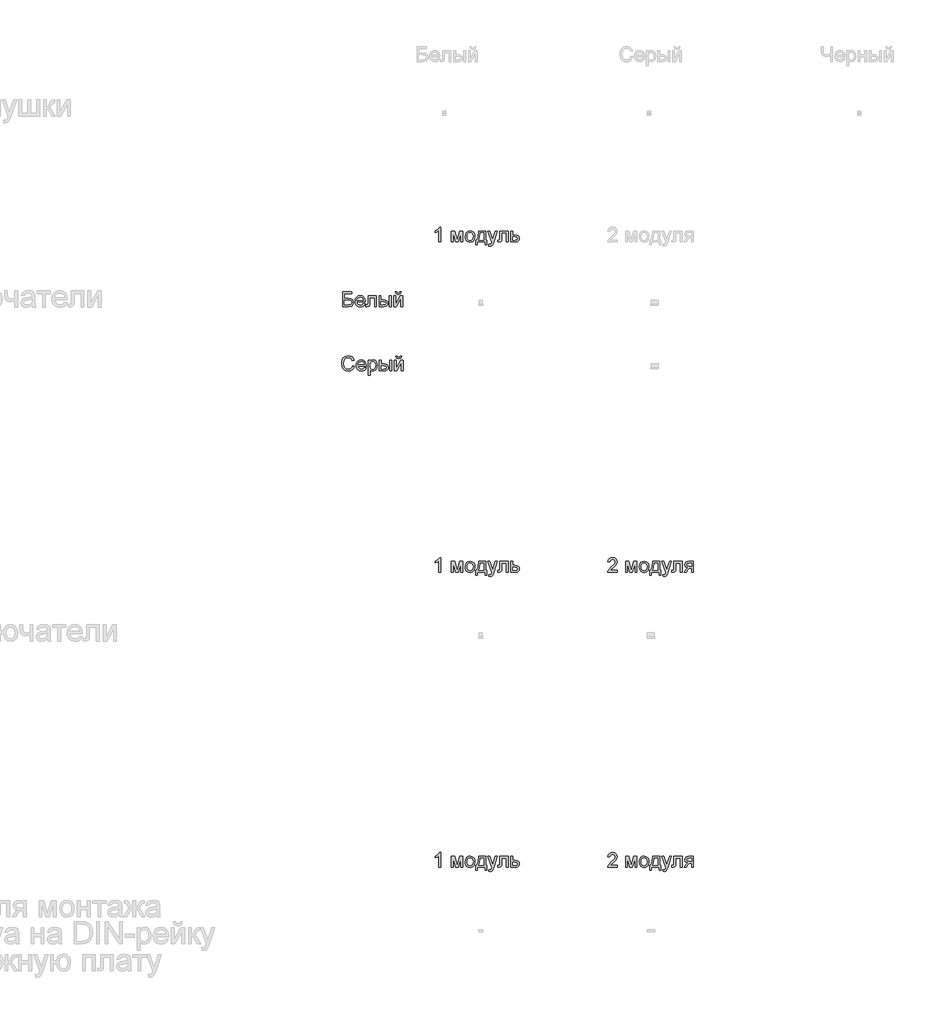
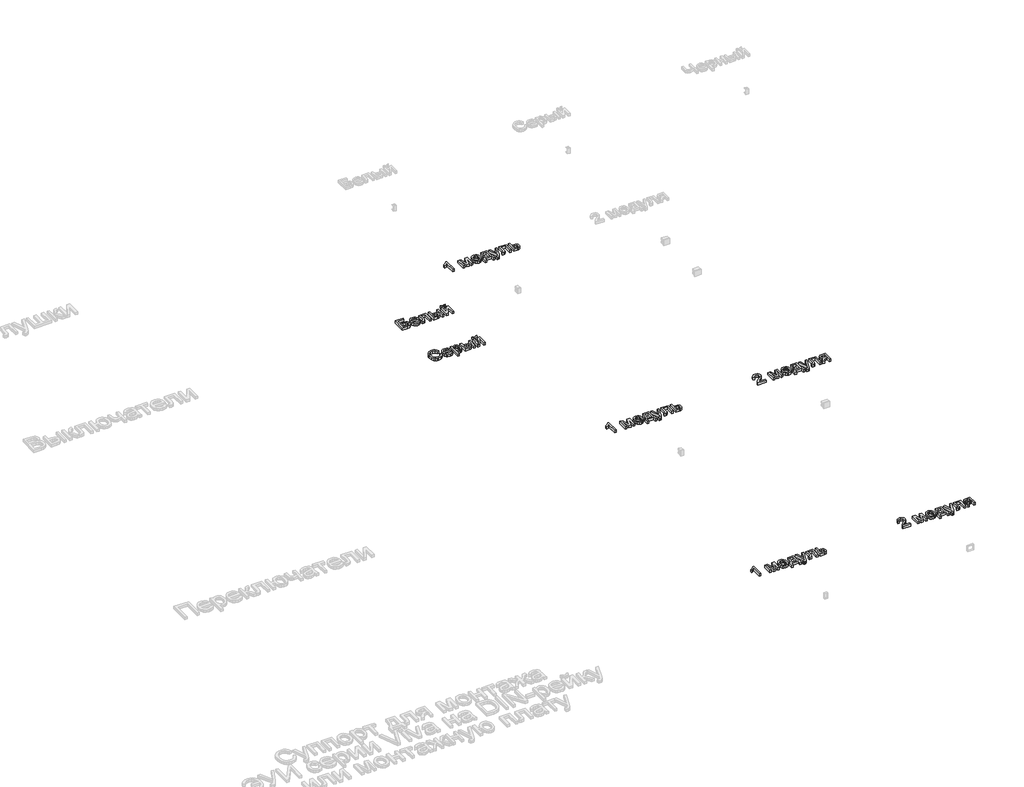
# One storey, part 6 of 15: 7 proxies.
"""IFC4 building model written with IfcOpenShell, lengths in millimetres."""

import ifcopenshell
import ifcopenshell.guid

model = None  # the IFC model being written
_history = None  # IfcOwnerHistory: only IFC2X3 demands one
_inside = {}  # id of a spatial element -> (the spatial element, [elements in it])
_under = {}  # id of a project, library or spatial element -> (it, [spatial elements below it])
_declared = {}  # id of a project -> (the project, [libraries it declares])
_typed = {}  # id of a type object -> (the type object, [elements of that type])
_made_of = {}  # id of a material, layer set ... -> (it, [elements and type objects made of it])


def new_model(schema):
    """Start an empty IFC model of exactly this schema.

    Asked for "IFC4X3", IfcOpenShell would pick the latest addendum, in which some entities
    have other attributes; the version numbers below select the first issue.
    IFC2X3 requires an IfcOwnerHistory on every rooted entity: one is made here for all.
    """
    global model, _history
    if schema == "IFC4X3":
        model = ifcopenshell.file(schema_version=(4, 3, 0, 0))
    else:
        model = ifcopenshell.file(schema=schema)
    _inside.clear()
    _under.clear()
    _declared.clear()
    _typed.clear()
    _made_of.clear()
    _history = None
    if model.schema == "IFC2X3":
        org = make("IfcOrganization", Name="unknown")
        user = make(
            "IfcPersonAndOrganization",
            ThePerson=make("IfcPerson", FamilyName="unknown"),
            TheOrganization=org,
        )
        app = make(
            "IfcApplication",
            ApplicationDeveloper=org,
            Version="unknown",
            ApplicationFullName="unknown",
            ApplicationIdentifier="unknown",
        )
        _history = make(
            "IfcOwnerHistory",
            OwningUser=user,
            OwningApplication=app,
            ChangeAction="ADDED",
            CreationDate=0,
        )
    return model


def make(cls, **values):
    """One entity of the class cls with the attributes given. An attribute that is None is left unset."""
    return model.create_entity(
        cls, **{name: value for name, value in values.items() if value is not None}
    )


def rooted(cls, **values):
    """An entity with a GlobalId (a new one), such as an element, a storey or a relation."""
    return make(cls, GlobalId=ifcopenshell.guid.new(), OwnerHistory=_history, **values)


def si_unit(unit_type, name, prefix=None):
    """IfcSIUnit, for example si_unit("LENGTHUNIT", "METRE", prefix="MILLI")."""
    return make("IfcSIUnit", UnitType=unit_type, Prefix=prefix, Name=name)


def assignment(units):
    """IfcUnitAssignment: the units of a project."""
    return None if units is None else make("IfcUnitAssignment", Units=units)


def point(xyz):
    """IfcCartesianPoint."""
    return None if xyz is None else make("IfcCartesianPoint", Coordinates=xyz)


def direction(xyz):
    """IfcDirection."""
    return None if xyz is None else make("IfcDirection", DirectionRatios=xyz)


def frame(location, z_axis=None, x_axis=None):
    """IfcAxis2Placement3D, a coordinate frame: its origin and axes. An axis left out is left unset."""
    return make(
        "IfcAxis2Placement3D",
        Location=point(location),
        Axis=direction(z_axis),
        RefDirection=direction(x_axis),
    )


def origin():
    """The frame at (0, 0, 0) with its axes left unset."""
    return frame((0.0, 0.0, 0.0))


def origin_with_axes():
    """The frame at (0, 0, 0) with the z axis (0, 0, 1) and the x axis (1, 0, 0) written out."""
    return frame((0.0, 0.0, 0.0), z_axis=(0.0, 0.0, 1.0), x_axis=(1.0, 0.0, 0.0))


def place(relative_to, where):
    """IfcLocalPlacement: puts the frame where relative to a parent placement (None: the world)."""
    return make(
        "IfcLocalPlacement", PlacementRelTo=relative_to, RelativePlacement=where
    )


def context(
    kind, dimensions, precision=None, world=None, true_north=None, identifier=None
):
    """IfcGeometricRepresentationContext, for example the 3D "Model" context."""
    return make(
        "IfcGeometricRepresentationContext",
        ContextIdentifier=identifier,
        ContextType=kind,
        CoordinateSpaceDimension=dimensions,
        Precision=precision,
        WorldCoordinateSystem=world,
        TrueNorth=true_north,
    )


def project(units=None, contexts=None):
    """IfcProject with its units and contexts."""
    return rooted(
        "IfcProject",
        Name="project",
        RepresentationContexts=contexts,
        UnitsInContext=assignment(units),
    )


def spatial(cls, under=None, at=None, **own):
    """A site, building, storey or space (cls), placed at a placement, below another one or the project."""
    s = rooted(cls, ObjectPlacement=at, **own)
    if under is not None:
        _under.setdefault(under.id(), (under, []))[1].append(s)
    return s


def polyline(points):
    """IfcPolyline through the points."""
    return make("IfcPolyline", Points=[point(p) for p in points])


def outline(outer, holes=None, kind="AREA"):
    """IfcArbitraryClosedProfileDef: a profile drawn as a closed curve; with holes, ...WithVoids."""
    if holes is None:
        return make("IfcArbitraryClosedProfileDef", ProfileType=kind, OuterCurve=outer)
    return make(
        "IfcArbitraryProfileDefWithVoids",
        ProfileType=kind,
        OuterCurve=outer,
        InnerCurves=holes,
    )


def extrude(swept, where, along, depth):
    """IfcExtrudedAreaSolid: the profile swept, set in the frame where, extruded along a direction by depth."""
    return make(
        "IfcExtrudedAreaSolid",
        SweptArea=swept,
        Position=where,
        ExtrudedDirection=direction(along),
        Depth=depth,
    )


def shape(context_of_items, identifier, shape_type, items):
    """IfcShapeRepresentation: the items that make up one representation, for example the "Body"."""
    return make(
        "IfcShapeRepresentation",
        ContextOfItems=context_of_items,
        RepresentationIdentifier=identifier,
        RepresentationType=shape_type,
        Items=items,
    )


def made_of(thing, what):
    """Note that an element or type object is made of a material, layer set ...; save() writes the relation."""
    if what is not None:
        _made_of.setdefault(what.id(), (what, []))[1].append(thing)
    return thing


def element(
    cls,
    number,
    at=None,
    inside=None,
    cuts=None,
    type_object=None,
    material=None,
    context=None,
    identifier="Body",
    shape_type=None,
    held_by="IfcProductDefinitionShape",
    body=None,
    shapes=None,
    **own,
):
    """One element of the class cls, such as IfcWall. Its Tag is "e" and its number.

    at: its placement. inside: the storey or other place that contains it. cuts: it is an
    opening in that element (IfcRelVoidsElement). A single representation is given by context,
    identifier, shape_type and body (its items); several are given by shapes. held_by: the class
    of the entity that holds the representations. save() writes the other relations.
    """
    e = rooted(cls, Tag="e%d" % number, ObjectPlacement=at, **own)
    if body is not None:
        shapes = [shape(context, identifier, shape_type, body)]
    if shapes is not None:
        e.Representation = make(held_by, Representations=shapes)
    if inside is not None:
        _inside.setdefault(inside.id(), (inside, []))[1].append(e)
    if cuts is not None:
        rooted(
            "IfcRelVoidsElement", RelatingBuildingElement=cuts, RelatedOpeningElement=e
        )
    if type_object is not None:
        _typed.setdefault(type_object.id(), (type_object, []))[1].append(e)
    return made_of(e, material)


def aggregate(whole, parts):
    """IfcRelAggregates: a whole, such as a stair, and the parts it consists of."""
    return rooted("IfcRelAggregates", RelatingObject=whole, RelatedObjects=parts)


def save(model, path):
    """Write the relations noted so far, then the file.

    IfcRelAggregates (storeys below a building ...), IfcRelContainedInSpatialStructure (elements
    in a storey), IfcRelDefinesByType, IfcRelAssociatesMaterial and IfcRelDeclares: one each for
    every whole, place, type object, material and project.
    """
    for whole, parts in _under.values():
        aggregate(whole, parts)
    for where, things in _inside.values():
        rooted(
            "IfcRelContainedInSpatialStructure",
            RelatedElements=things,
            RelatingStructure=where,
        )
    for kind, things in _typed.values():
        rooted("IfcRelDefinesByType", RelatedObjects=things, RelatingType=kind)
    for what, things in _made_of.values():
        rooted("IfcRelAssociatesMaterial", RelatedObjects=things, RelatingMaterial=what)
    for by, libraries in _declared.values():
        rooted("IfcRelDeclares", RelatingContext=by, RelatedDefinitions=libraries)
    model.write(path)


model = new_model("IFC4")

# Units and contexts
model_context = context("Model", 3, world=origin())
ifc_project = project(units=[si_unit("LENGTHUNIT", "METRE", prefix="MILLI")], contexts=[model_context])

# Site, building, storey
site = spatial("IfcSite", under=ifc_project)
building = spatial("IfcBuilding", under=site)
storey = spatial("IfcBuildingStorey", under=building, Name="Этаж 01", Elevation=0.0)

# Proxies
placement = place(None, origin())
element("IfcBuildingElementProxy", 1, Name="100 мм Arial", ObjectType="100 мм Arial", at=placement, inside=storey, context=model_context, shape_type="SweptSolid", body=[
    extrude(outline(polyline([(1484.9231999, -9748.687092), (1472.3661611, -9748.687092), (1472.3661611, -9670.4018035), (1460.4713099, -9678.8753521), (1447.2520836, -9685.2151851), (1447.2520836, -9673.3448594), (1465.6584461, -9661.5971611), (1476.829796, -9648.2307819), (1484.9231999, -9648.2307819), (1484.9231999, -9748.687092)])), origin_with_axes(), (0.0, 0.0, 1.0), 20.0),
    extrude(outline(polyline([(1557.1261728, -9674.9144893), (1578.7331086, -9674.9144893), (1595.3859003, -9733.9718122), (1613.3385417, -9674.9144893), (1634.0380352, -9674.9144893), (1634.0380352, -9748.687092), (1621.4809965, -9748.687092), (1621.4809965, -9689.2864126), (1603.4302532, -9748.687092), (1586.9491399, -9748.687092), (1569.6832116, -9686.4414585), (1569.6832116, -9748.687092), (1557.1261728, -9748.687092), (1557.1261728, -9674.9144893)])), origin_with_axes(), (0.0, 0.0, 1.0), 20.0),
    extrude(outline(polyline([(1649.7343337, -9711.8007907), (1652.4505291, -9694.0136962), (1660.5991153, -9681.5118397), (1670.6668192, -9675.3866045), (1682.7210859, -9673.3448594), (1695.9127212, -9675.8311286), (1706.4494746, -9683.289936), (1713.3564591, -9695.1326706), (1715.6587872, -9710.7707211), (1711.5875598, -9733.1134209), (1699.7294969, -9745.7562988), (1682.7210859, -9750.2567219), (1669.3700352, -9747.7796498), (1658.8455445, -9740.3484335), (1652.0121364, -9728.2573786), (1649.7343337, -9711.8007907)]), holes=[polyline([(1662.2913725, -9711.7762652), (1663.7445064, -9723.1407532), (1668.103908, -9731.2372227), (1674.6644702, -9736.084068), (1682.7210859, -9737.6996831), (1690.7409134, -9736.074871), (1697.289213, -9731.2004345), (1701.6486146, -9722.9966661), (1703.1017485, -9711.3838577), (1701.6394175, -9700.3504636), (1697.2524248, -9692.3643586), (1690.6949282, -9687.5175133), (1682.7210859, -9685.9018982), (1674.6644702, -9687.5113819), (1668.103908, -9692.3398331), (1663.7445064, -9700.4179086), (1662.2913725, -9711.7762652)])]), origin_with_axes(), (0.0, 0.0, 1.0), 20.0),
    extrude(outline(polyline([(1740.7728648, -9674.9144893), (1787.8617602, -9674.9144893), (1787.8617602, -9736.1300533), (1797.2795392, -9736.1300533), (1797.2795392, -9769.09228), (1784.7225005, -9769.09228), (1784.7225005, -9748.687092), (1732.9247156, -9748.687092), (1732.9247156, -9769.09228), (1720.3676768, -9769.09228), (1720.3676768, -9736.1300533), (1728.215826, -9736.1300533), (1737.915648, -9712.1809354), (1740.7728648, -9674.9144893)]), holes=[polyline([(1751.7602737, -9687.4715281), (1748.8172177, -9716.0804845), (1742.3424946, -9736.1300533), (1775.3047214, -9736.1300533), (1775.3047214, -9687.4715281), (1751.7602737, -9687.4715281)])]), origin_with_axes(), (0.0, 0.0, 1.0), 20.0),
    extrude(outline(polyline([(1811.4062079, -9776.9404293), (1809.836578, -9764.8493744), (1816.2131993, -9765.9530204), (1822.1728876, -9764.5673315), (1825.8271821, -9760.7045706), (1829.2607474, -9751.4584697), (1830.241766, -9748.4173119), (1803.5580586, -9674.9144893), (1816.8018105, -9674.9144893), (1830.9530045, -9715.8720181), (1835.8826233, -9732.2550296), (1840.812242, -9717.7850045), (1855.3558435, -9674.9144893), (1868.5014935, -9674.9144893), (1842.8233302, -9750.4529256), (1836.1524034, -9766.8359371), (1828.8683399, -9775.6896305), (1819.0826788, -9778.5100591), (1811.4062079, -9776.9404293)])), origin_with_axes(), (0.0, 0.0, 1.0), 20.0),
    extrude(outline(polyline([(1885.1788106, -9674.9144893), (1941.6854851, -9674.9144893), (1941.6854851, -9748.6135156), (1929.1284463, -9748.6135156), (1929.1284463, -9687.4715281), (1897.7358494, -9687.4715281), (1897.7358494, -9722.6655723), (1896.8897208, -9738.901431), (1892.2421449, -9745.7562988), (1881.254736, -9748.687092), (1871.052142, -9748.0494299), (1871.052142, -9736.1300533), (1876.6684738, -9736.1300533), (1882.3461193, -9735.3575011), (1884.6147249, -9732.9049545), (1885.1788106, -9721.9543337), (1885.1788106, -9674.9144893)])), origin_with_axes(), (0.0, 0.0, 1.0), 20.0),
    extrude(outline(polyline([(1960.5210432, -9674.9144893), (1973.078082, -9674.9144893), (1973.078082, -9701.5981967), (1987.5481071, -9701.5981967), (2000.0928832, -9703.1708922), (2009.3757722, -9707.8889788), (2015.1147313, -9715.3723117), (2017.0277177, -9725.2407462), (2015.3998399, -9734.226264), (2010.5162064, -9741.8076987), (2002.0518548, -9746.9672437), (1989.6818227, -9748.687092), (1960.5210432, -9748.687092), (1960.5210432, -9674.9144893)]), holes=[polyline([(1973.078082, -9736.1300533), (1984.8012549, -9736.1300533), (1999.9457304, -9733.4935656), (2004.4706789, -9725.2652717), (2001.1229528, -9717.5397498), (1986.2973084, -9714.1552354), (1973.078082, -9714.1552354), (1973.078082, -9736.1300533)])]), origin_with_axes(), (0.0, 0.0, 1.0), 20.0),
])
element("IfcBuildingElementProxy", 2, Name="100 мм Arial", ObjectType="100 мм Arial", at=placement, inside=storey, context=model_context, shape_type="SweptSolid", body=[
    extrude(outline(polyline([(818.5746136, -10087.4706043), (881.3598074, -10087.4706043), (881.3598074, -10100.0276431), (831.1316523, -10100.0276431), (831.1316523, -10129.8506101), (854.6515746, -10129.8506101), (875.3755936, -10132.4012586), (887.7119032, -10142.0397669), (892.3472163, -10158.5208803), (889.0485411, -10172.8314899), (879.2015664, -10183.7085342), (856.9079175, -10187.9269144), (818.5746136, -10187.9269144), (818.5746136, -10087.4706043)]), holes=[polyline([(831.1316523, -10175.3698757), (858.0360889, -10175.3698757), (874.345524, -10171.2250719), (878.4290142, -10166.0440671), (879.7901776, -10158.7906604), (876.6754433, -10148.9559484), (868.005691, -10143.7074986), (849.0842937, -10142.4076489), (831.1316523, -10142.4076489), (831.1316523, -10175.3698757)])]), origin_with_axes(), (0.0, 0.0, 1.0), 20.0),
    extrude(outline(polyline([(959.6941469, -10165.9520966), (972.005931, -10167.5217264), (967.5698873, -10176.7984841), (960.4912246, -10183.7330597), (950.9293584, -10188.0556731), (939.0437042, -10189.4965443), (924.3100303, -10187.0102751), (912.9731335, -10179.5514677), (905.7442523, -10167.6044999), (903.3346253, -10151.6537497), (905.7687778, -10135.166505), (913.0712354, -10122.8363268), (924.254848, -10115.1475931), (938.3324657, -10112.5846818), (951.9716907, -10115.1414617), (962.8701948, -10122.8118013), (970.0163026, -10135.117454), (972.3983385, -10151.5801733), (972.3247621, -10154.9646877), (915.891664, -10154.9646877), (918.0652335, -10164.3640727), (923.1144139, -10171.2741228), (930.401543, -10175.5231598), (939.2889589, -10176.9395055), (951.600743, -10174.3152806), (959.6941469, -10165.9520966)]), holes=[polyline([(915.891664, -10142.4076489), (959.8412997, -10142.4076489), (954.8135791, -10131.0278325), (947.4927274, -10126.6132486), (938.2834148, -10125.1417206), (922.8201083, -10129.8383474), (917.9548689, -10135.3289862), (915.891664, -10142.4076489)])]), origin_with_axes(), (0.0, 0.0, 1.0), 20.0),
    extrude(outline(polyline([(991.2338966, -10114.1543117), (1047.7405711, -10114.1543117), (1047.7405711, -10187.853338), (1035.1835323, -10187.853338), (1035.1835323, -10126.7113504), (1003.7909354, -10126.7113504), (1003.7909354, -10161.9053946), (1002.9448068, -10178.1412534), (998.2972309, -10184.9961212), (987.309822, -10187.9269144), (977.107228, -10187.2892523), (977.107228, -10175.3698757), (982.7235598, -10175.3698757), (988.4012053, -10174.5973235), (990.6698109, -10172.1447768), (991.2338966, -10161.1941561), (991.2338966, -10114.1543117)])), origin_with_axes(), (0.0, 0.0, 1.0), 20.0),
    extrude(outline(polyline([(1135.6398425, -10114.1543117), (1148.1968812, -10114.1543117), (1148.1968812, -10187.9269144), (1135.6398425, -10187.9269144), (1135.6398425, -10114.1543117)])), origin_with_axes(), (0.0, 0.0, 1.0), 20.0),
    extrude(outline(polyline([(1066.5761292, -10114.1543117), (1079.133168, -10114.1543117), (1079.133168, -10140.8380191), (1094.6577882, -10140.8380191), (1108.076284, -10142.4107146), (1118.0182949, -10147.1288012), (1124.1711213, -10154.6121341), (1126.2220634, -10164.4805686), (1124.5022151, -10173.4660863), (1119.3426701, -10181.0475211), (1110.4062033, -10186.2070661), (1097.3555895, -10187.9269144), (1066.5761292, -10187.9269144), (1066.5761292, -10114.1543117)]), holes=[polyline([(1079.133168, -10175.3698757), (1092.0335633, -10175.3698757), (1108.686355, -10172.733388), (1113.6650246, -10164.5050941), (1109.9739419, -10156.7795722), (1093.6767696, -10153.3950578), (1079.133168, -10153.3950578), (1079.133168, -10175.3698757)])]), origin_with_axes(), (0.0, 0.0, 1.0), 20.0),
    extrude(outline(polyline([(1167.0324394, -10114.1543117), (1179.5894782, -10114.1543117), (1179.5894782, -10170.4157315), (1210.4425148, -10114.1543117), (1226.6783735, -10114.1543117), (1226.6783735, -10187.9269144), (1214.1213348, -10187.9269144), (1214.1213348, -10132.0088512), (1183.4645018, -10187.9269144), (1167.0324394, -10187.9269144), (1167.0324394, -10114.1543117)])), origin_with_axes(), (0.0, 0.0, 1.0), 20.0),
    extrude(outline(polyline([(1207.8428154, -10087.4706043), (1217.2605945, -10087.4706043), (1211.1660161, -10101.4378574), (1197.6402214, -10106.3061624), (1182.998518, -10101.4746456), (1176.4502185, -10087.4706043), (1185.8679975, -10087.4706043), (1189.3996647, -10094.5462013), (1196.5120499, -10096.8883834), (1204.3111482, -10094.6197777), (1207.8428154, -10087.4706043)])), origin_with_axes(), (0.0, 0.0, 1.0), 20.0),
])
element("IfcBuildingElementProxy", 3, Name="100 мм Arial", ObjectType="100 мм Arial", at=placement, inside=storey, context=model_context, shape_type="SweptSolid", body=[
    extrude(outline(polyline([(886.8535119, -10587.2178354), (899.4105506, -10590.455197), (893.6164092, -10605.0877034), (884.5235926, -10615.777741), (872.5796905, -10622.3168435), (858.2322926, -10624.4965443), (843.6672313, -10622.8472067), (832.1004083, -10617.8991938), (823.2344522, -10609.824184), (816.7719918, -10598.7938556), (811.5112793, -10571.9384699), (812.9981357, -10557.2906351), (817.4587048, -10544.6416259), (824.6599949, -10534.3930466), (834.3690139, -10526.9465019), (845.8837203, -10522.4123563), (858.5020728, -10520.9009744), (872.2700564, -10522.8568804), (883.6529385, -10528.7245982), (892.2950997, -10538.1423773), (897.8409208, -10550.748467), (885.283882, -10553.7405739), (874.9831862, -10538.3017928), (858.0115634, -10533.4580132), (838.3666649, -10538.8290903), (827.2688914, -10553.2500646), (824.068318, -10571.9139444), (827.8575026, -10593.5454058), (839.6542519, -10607.365506), (856.9814939, -10611.9395055), (867.463065, -10610.3821384), (876.1971967, -10605.7100371), (882.7914815, -10597.9722524), (886.8535119, -10587.2178354)])), origin_with_axes(), (0.0, 0.0, 1.0), 20.0),
    extrude(outline(polyline([(966.7574812, -10600.9520966), (979.0692653, -10602.5217264), (974.6332216, -10611.7984841), (967.5545589, -10618.7330597), (957.9926927, -10623.0556731), (946.1070386, -10624.4965443), (931.3733647, -10622.0102751), (920.0364678, -10614.5514677), (912.8075866, -10602.6044999), (910.3979596, -10586.6537497), (912.8321121, -10570.166505), (920.1345697, -10557.8363268), (931.3181824, -10550.1475931), (945.3958, -10547.5846818), (959.035025, -10550.1414617), (969.9335291, -10557.8118013), (977.0796369, -10570.117454), (979.4616728, -10586.5801733), (979.3880964, -10589.9646877), (922.9549983, -10589.9646877), (925.1285678, -10599.3640727), (930.1777482, -10606.2741228), (937.4648774, -10610.5231598), (946.3522932, -10611.9395055), (958.6640773, -10609.3152806), (966.7574812, -10600.9520966)]), holes=[polyline([(922.9549983, -10577.4076489), (966.904634, -10577.4076489), (961.8769134, -10566.0278325), (954.5560617, -10561.6132486), (945.3467491, -10560.1417206), (929.8834426, -10564.8383474), (925.0182032, -10570.3289862), (922.9549983, -10577.4076489)])]), origin_with_axes(), (0.0, 0.0, 1.0), 20.0),
    extrude(outline(polyline([(992.0187116, -10651.1802517), (992.0187116, -10549.1543117), (1004.5757503, -10549.1543117), (1004.5757503, -10561.4660958), (1013.2577654, -10551.0550353), (1024.9809383, -10547.5846818), (1040.897966, -10552.4407242), (1051.2967637, -10566.1259344), (1054.8039054, -10585.4765273), (1050.8430426, -10605.8204017), (1039.3405989, -10619.6772902), (1023.4603594, -10624.4965443), (1012.5342642, -10621.2714455), (1004.5757503, -10613.1167279), (1004.5757503, -10651.1802517), (992.0187116, -10651.1802517)]), holes=[polyline([(1004.5757503, -10586.6292243), (1005.933848, -10597.8864133), (1010.0081411, -10605.759088), (1016.0199461, -10610.3944011), (1023.1905793, -10611.9395055), (1030.4777085, -10610.3392188), (1036.6427976, -10605.5383588), (1040.8458494, -10597.3775099), (1042.2468666, -10585.6972565), (1040.8795719, -10574.5013811), (1036.7776876, -10566.5183418), (1030.7750797, -10561.7358759), (1023.7056141, -10560.1417206), (1016.6085572, -10561.8370435), (1010.3760231, -10566.923012), (1006.0258185, -10575.2402108), (1004.5757503, -10586.6292243)])]), origin_with_axes(), (0.0, 0.0, 1.0), 20.0),
    extrude(outline(polyline([(1137.9942872, -10549.1543117), (1150.551326, -10549.1543117), (1150.551326, -10622.9269144), (1137.9942872, -10622.9269144), (1137.9942872, -10549.1543117)])), origin_with_axes(), (0.0, 0.0, 1.0), 20.0),
    extrude(outline(polyline([(1068.930574, -10549.1543117), (1081.4876128, -10549.1543117), (1081.4876128, -10575.8380191), (1097.012233, -10575.8380191), (1110.4307288, -10577.4107146), (1120.3727397, -10582.1288012), (1126.525566, -10589.6121341), (1128.5765082, -10599.4805686), (1126.8566598, -10608.4660863), (1121.6971149, -10616.0475211), (1112.7606481, -10621.2070661), (1099.7100343, -10622.9269144), (1068.930574, -10622.9269144), (1068.930574, -10549.1543117)]), holes=[polyline([(1081.4876128, -10610.3698757), (1094.3880081, -10610.3698757), (1111.0407997, -10607.733388), (1116.0194694, -10599.5050941), (1112.3283867, -10591.7795722), (1096.0312143, -10588.3950578), (1081.4876128, -10588.3950578), (1081.4876128, -10610.3698757)])]), origin_with_axes(), (0.0, 0.0, 1.0), 20.0),
    extrude(outline(polyline([(1210.1972602, -10522.4706043), (1219.6150392, -10522.4706043), (1213.5204609, -10536.4378574), (1199.9946662, -10541.3061624), (1185.3529628, -10536.4746456), (1178.8046632, -10522.4706043), (1188.2224423, -10522.4706043), (1191.7541095, -10529.5462013), (1198.8664947, -10531.8883834), (1206.665593, -10529.6197777), (1210.1972602, -10522.4706043)])), origin_with_axes(), (0.0, 0.0, 1.0), 20.0),
    extrude(outline(polyline([(1169.3868842, -10549.1543117), (1181.9439229, -10549.1543117), (1181.9439229, -10605.4157315), (1212.7969596, -10549.1543117), (1229.0328183, -10549.1543117), (1229.0328183, -10622.9269144), (1216.4757795, -10622.9269144), (1216.4757795, -10567.0088512), (1185.8189466, -10622.9269144), (1169.3868842, -10622.9269144), (1169.3868842, -10549.1543117)])), origin_with_axes(), (0.0, 0.0, 1.0), 20.0),
])
element("IfcBuildingElementProxy", 4, Name="100 мм Arial", ObjectType="100 мм Arial", at=placement, inside=storey, context=model_context, shape_type="SweptSolid", body=[
    extrude(outline(polyline([(1484.9231999, -11988.687092), (1472.3661611, -11988.687092), (1472.3661611, -11910.4018035), (1460.4713099, -11918.8753521), (1447.2520836, -11925.2151851), (1447.2520836, -11913.3448594), (1465.6584461, -11901.5971611), (1476.829796, -11888.2307819), (1484.9231999, -11888.2307819), (1484.9231999, -11988.687092)])), origin_with_axes(), (0.0, 0.0, 1.0), 20.0),
    extrude(outline(polyline([(1557.1261728, -11914.9144893), (1578.7331086, -11914.9144893), (1595.3859003, -11973.9718122), (1613.3385417, -11914.9144893), (1634.0380352, -11914.9144893), (1634.0380352, -11988.687092), (1621.4809965, -11988.687092), (1621.4809965, -11929.2864126), (1603.4302532, -11988.687092), (1586.9491399, -11988.687092), (1569.6832116, -11926.4414585), (1569.6832116, -11988.687092), (1557.1261728, -11988.687092), (1557.1261728, -11914.9144893)])), origin_with_axes(), (0.0, 0.0, 1.0), 20.0),
    extrude(outline(polyline([(1649.7343337, -11951.8007907), (1652.4505291, -11934.0136962), (1660.5991153, -11921.5118397), (1670.6668192, -11915.3866045), (1682.7210859, -11913.3448594), (1695.9127212, -11915.8311286), (1706.4494746, -11923.289936), (1713.3564591, -11935.1326706), (1715.6587872, -11950.7707211), (1711.5875598, -11973.1134209), (1699.7294969, -11985.7562988), (1682.7210859, -11990.2567219), (1669.3700352, -11987.7796498), (1658.8455445, -11980.3484335), (1652.0121364, -11968.2573786), (1649.7343337, -11951.8007907)]), holes=[polyline([(1662.2913725, -11951.7762652), (1663.7445064, -11963.1407532), (1668.103908, -11971.2372227), (1674.6644702, -11976.084068), (1682.7210859, -11977.6996831), (1690.7409134, -11976.074871), (1697.289213, -11971.2004345), (1701.6486146, -11962.9966661), (1703.1017485, -11951.3838577), (1701.6394175, -11940.3504636), (1697.2524248, -11932.3643586), (1690.6949282, -11927.5175133), (1682.7210859, -11925.9018982), (1674.6644702, -11927.5113819), (1668.103908, -11932.3398331), (1663.7445064, -11940.4179086), (1662.2913725, -11951.7762652)])]), origin_with_axes(), (0.0, 0.0, 1.0), 20.0),
    extrude(outline(polyline([(1740.7728648, -11914.9144893), (1787.8617602, -11914.9144893), (1787.8617602, -11976.1300533), (1797.2795392, -11976.1300533), (1797.2795392, -12009.09228), (1784.7225005, -12009.09228), (1784.7225005, -11988.687092), (1732.9247156, -11988.687092), (1732.9247156, -12009.09228), (1720.3676768, -12009.09228), (1720.3676768, -11976.1300533), (1728.215826, -11976.1300533), (1737.915648, -11952.1809354), (1740.7728648, -11914.9144893)]), holes=[polyline([(1751.7602737, -11927.4715281), (1748.8172177, -11956.0804845), (1742.3424946, -11976.1300533), (1775.3047214, -11976.1300533), (1775.3047214, -11927.4715281), (1751.7602737, -11927.4715281)])]), origin_with_axes(), (0.0, 0.0, 1.0), 20.0),
    extrude(outline(polyline([(1811.4062079, -12016.9404293), (1809.836578, -12004.8493744), (1816.2131993, -12005.9530204), (1822.1728876, -12004.5673315), (1825.8271821, -12000.7045706), (1829.2607474, -11991.4584697), (1830.241766, -11988.4173119), (1803.5580586, -11914.9144893), (1816.8018105, -11914.9144893), (1830.9530045, -11955.8720181), (1835.8826233, -11972.2550296), (1840.812242, -11957.7850045), (1855.3558435, -11914.9144893), (1868.5014935, -11914.9144893), (1842.8233302, -11990.4529256), (1836.1524034, -12006.8359371), (1828.8683399, -12015.6896305), (1819.0826788, -12018.5100591), (1811.4062079, -12016.9404293)])), origin_with_axes(), (0.0, 0.0, 1.0), 20.0),
    extrude(outline(polyline([(1885.1788106, -11914.9144893), (1941.6854851, -11914.9144893), (1941.6854851, -11988.6135156), (1929.1284463, -11988.6135156), (1929.1284463, -11927.4715281), (1897.7358494, -11927.4715281), (1897.7358494, -11962.6655723), (1896.8897208, -11978.901431), (1892.2421449, -11985.7562988), (1881.254736, -11988.687092), (1871.052142, -11988.0494299), (1871.052142, -11976.1300533), (1876.6684738, -11976.1300533), (1882.3461193, -11975.3575011), (1884.6147249, -11972.9049545), (1885.1788106, -11961.9543337), (1885.1788106, -11914.9144893)])), origin_with_axes(), (0.0, 0.0, 1.0), 20.0),
    extrude(outline(polyline([(1960.5210432, -11914.9144893), (1973.078082, -11914.9144893), (1973.078082, -11941.5981967), (1987.5481071, -11941.5981967), (2000.0928832, -11943.1708922), (2009.3757722, -11947.8889788), (2015.1147313, -11955.3723117), (2017.0277177, -11965.2407462), (2015.3998399, -11974.226264), (2010.5162064, -11981.8076987), (2002.0518548, -11986.9672437), (1989.6818227, -11988.687092), (1960.5210432, -11988.687092), (1960.5210432, -11914.9144893)]), holes=[polyline([(1973.078082, -11976.1300533), (1984.8012549, -11976.1300533), (1999.9457304, -11973.4935656), (2004.4706789, -11965.2652717), (2001.1229528, -11957.5397498), (1986.2973084, -11954.1552354), (1973.078082, -11954.1552354), (1973.078082, -11976.1300533)])]), origin_with_axes(), (0.0, 0.0, 1.0), 20.0),
])
element("IfcBuildingElementProxy", 5, Name="100 мм Arial", ObjectType="100 мм Arial", at=placement, inside=storey, context=model_context, shape_type="SweptSolid", body=[
    extrude(outline(polyline([(2682.1667539, -11976.1300533), (2682.1667539, -11988.687092), (2616.2423003, -11988.687092), (2617.591201, -11980.0296024), (2625.218621, -11966.7000115), (2640.9394449, -11952.1441472), (2662.6199572, -11931.2239244), (2668.0400853, -11916.9991539), (2662.9265255, -11905.4844475), (2649.5724091, -11900.7878207), (2635.6542069, -11905.3740829), (2630.368969, -11918.053749), (2617.8119302, -11916.4841191), (2620.8561537, -11904.3378819), (2627.4381757, -11895.4657945), (2637.2146397, -11890.039535), (2649.8421892, -11888.2307819), (2662.5617092, -11890.2418701), (2672.3197791, -11896.2751349), (2678.5277878, -11905.2882437), (2680.597124, -11916.2388645), (2678.3653066, -11928.1459784), (2670.946353, -11940.4577625), (2652.9569235, -11957.6623771), (2638.5114238, -11969.7411693), (2632.8460411, -11976.1300533), (2682.1667539, -11976.1300533)])), origin_with_axes(), (0.0, 0.0, 1.0), 20.0),
    extrude(outline(polyline([(2737.1037985, -11914.9144893), (2758.7107343, -11914.9144893), (2775.363526, -11973.9718122), (2793.3161673, -11914.9144893), (2814.0156609, -11914.9144893), (2814.0156609, -11988.687092), (2801.4586222, -11988.687092), (2801.4586222, -11929.2864126), (2783.4078789, -11988.687092), (2766.9267656, -11988.687092), (2749.6608373, -11926.4414585), (2749.6608373, -11988.687092), (2737.1037985, -11988.687092), (2737.1037985, -11914.9144893)])), origin_with_axes(), (0.0, 0.0, 1.0), 20.0),
    extrude(outline(polyline([(2829.7119594, -11951.8007907), (2832.4281548, -11934.0136962), (2840.576741, -11921.5118397), (2850.6444449, -11915.3866045), (2862.6987116, -11913.3448594), (2875.8903468, -11915.8311286), (2886.4271003, -11923.289936), (2893.3340848, -11935.1326706), (2895.6364129, -11950.7707211), (2891.5651855, -11973.1134209), (2879.7071225, -11985.7562988), (2862.6987116, -11990.2567219), (2849.3476609, -11987.7796498), (2838.8231702, -11980.3484335), (2831.9897621, -11968.2573786), (2829.7119594, -11951.8007907)]), holes=[polyline([(2842.2689982, -11951.7762652), (2843.7221321, -11963.1407532), (2848.0815337, -11971.2372227), (2854.6420959, -11976.084068), (2862.6987116, -11977.6996831), (2870.7185391, -11976.074871), (2877.2668386, -11971.2004345), (2881.6262403, -11962.9966661), (2883.0793742, -11951.3838577), (2881.6170432, -11940.3504636), (2877.2300504, -11932.3643586), (2870.6725539, -11927.5175133), (2862.6987116, -11925.9018982), (2854.6420959, -11927.5113819), (2848.0815337, -11932.3398331), (2843.7221321, -11940.4179086), (2842.2689982, -11951.7762652)])]), origin_with_axes(), (0.0, 0.0, 1.0), 20.0),
    extrude(outline(polyline([(2920.7504905, -11914.9144893), (2967.8393859, -11914.9144893), (2967.8393859, -11976.1300533), (2977.2571649, -11976.1300533), (2977.2571649, -12009.09228), (2964.7001262, -12009.09228), (2964.7001262, -11988.687092), (2912.9023412, -11988.687092), (2912.9023412, -12009.09228), (2900.3453025, -12009.09228), (2900.3453025, -11976.1300533), (2908.1934517, -11976.1300533), (2917.8932736, -11952.1809354), (2920.7504905, -11914.9144893)]), holes=[polyline([(2931.7378994, -11927.4715281), (2928.7948434, -11956.0804845), (2922.3201203, -11976.1300533), (2955.2823471, -11976.1300533), (2955.2823471, -11927.4715281), (2931.7378994, -11927.4715281)])]), origin_with_axes(), (0.0, 0.0, 1.0), 20.0),
    extrude(outline(polyline([(2991.3838336, -12016.9404293), (2989.8142037, -12004.8493744), (2996.190825, -12005.9530204), (3002.1505133, -12004.5673315), (3005.8048078, -12000.7045706), (3009.2383731, -11991.4584697), (3010.2193917, -11988.4173119), (2983.5356843, -11914.9144893), (2996.7794361, -11914.9144893), (3010.9306302, -11955.8720181), (3015.860249, -11972.2550296), (3020.7898677, -11957.7850045), (3035.3334692, -11914.9144893), (3048.4791192, -11914.9144893), (3022.8009559, -11990.4529256), (3016.1300291, -12006.8359371), (3008.8459656, -12015.6896305), (2999.0603045, -12018.5100591), (2991.3838336, -12016.9404293)])), origin_with_axes(), (0.0, 0.0, 1.0), 20.0),
    extrude(outline(polyline([(3065.1564363, -11914.9144893), (3121.6631108, -11914.9144893), (3121.6631108, -11988.6135156), (3109.106072, -11988.6135156), (3109.106072, -11927.4715281), (3077.7134751, -11927.4715281), (3077.7134751, -11962.6655723), (3076.8673465, -11978.901431), (3072.2197706, -11985.7562988), (3061.2323617, -11988.687092), (3051.0297677, -11988.0494299), (3051.0297677, -11976.1300533), (3056.6460995, -11976.1300533), (3062.323745, -11975.3575011), (3064.5923506, -11972.9049545), (3065.1564363, -11961.9543337), (3065.1564363, -11914.9144893)])), origin_with_axes(), (0.0, 0.0, 1.0), 20.0),
    extrude(outline(polyline([(3197.0053434, -11914.9144893), (3197.0053434, -11988.687092), (3184.4483046, -11988.687092), (3184.4483046, -11960.4337548), (3177.6056995, -11960.4337548), (3168.2860223, -11962.0279101), (3159.5304308, -11972.7455389), (3149.5240405, -11988.687092), (3135.0049645, -11988.687092), (3147.6110542, -11968.5271587), (3158.3041575, -11958.0793101), (3149.7202443, -11955.4489538), (3143.6869796, -11950.45189), (3138.9290391, -11936.2271195), (3140.5538512, -11927.6309436), (3145.4282877, -11920.8251267), (3153.3806701, -11916.3921486), (3164.2393204, -11914.9144893), (3197.0053434, -11914.9144893)]), holes=[polyline([(3184.4483046, -11927.4715281), (3167.8936148, -11927.4715281), (3154.4904475, -11930.3777958), (3151.4860779, -11937.1836127), (3155.9129245, -11945.2892794), (3171.5969603, -11947.8767161), (3184.4483046, -11947.8767161), (3184.4483046, -11927.4715281)])]), origin_with_axes(), (0.0, 0.0, 1.0), 20.0),
])
element("IfcBuildingElementProxy", 6, Name="100 мм Arial", ObjectType="100 мм Arial", at=placement, inside=storey, context=model_context, shape_type="SweptSolid", body=[
    extrude(outline(polyline([(1484.9231999, -13988.687092), (1472.3661611, -13988.687092), (1472.3661611, -13910.4018035), (1460.4713099, -13918.8753521), (1447.2520836, -13925.2151851), (1447.2520836, -13913.3448594), (1465.6584461, -13901.5971611), (1476.829796, -13888.2307819), (1484.9231999, -13888.2307819), (1484.9231999, -13988.687092)])), origin_with_axes(), (0.0, 0.0, 1.0), 20.0),
    extrude(outline(polyline([(1557.1261728, -13914.9144893), (1578.7331086, -13914.9144893), (1595.3859003, -13973.9718122), (1613.3385417, -13914.9144893), (1634.0380352, -13914.9144893), (1634.0380352, -13988.687092), (1621.4809965, -13988.687092), (1621.4809965, -13929.2864126), (1603.4302532, -13988.687092), (1586.9491399, -13988.687092), (1569.6832116, -13926.4414585), (1569.6832116, -13988.687092), (1557.1261728, -13988.687092), (1557.1261728, -13914.9144893)])), origin_with_axes(), (0.0, 0.0, 1.0), 20.0),
    extrude(outline(polyline([(1649.7343337, -13951.8007907), (1652.4505291, -13934.0136962), (1660.5991153, -13921.5118397), (1670.6668192, -13915.3866045), (1682.7210859, -13913.3448594), (1695.9127212, -13915.8311286), (1706.4494746, -13923.289936), (1713.3564591, -13935.1326706), (1715.6587872, -13950.7707211), (1711.5875598, -13973.1134209), (1699.7294969, -13985.7562988), (1682.7210859, -13990.2567219), (1669.3700352, -13987.7796498), (1658.8455445, -13980.3484335), (1652.0121364, -13968.2573786), (1649.7343337, -13951.8007907)]), holes=[polyline([(1662.2913725, -13951.7762652), (1663.7445064, -13963.1407532), (1668.103908, -13971.2372227), (1674.6644702, -13976.084068), (1682.7210859, -13977.6996831), (1690.7409134, -13976.074871), (1697.289213, -13971.2004345), (1701.6486146, -13962.9966661), (1703.1017485, -13951.3838577), (1701.6394175, -13940.3504636), (1697.2524248, -13932.3643586), (1690.6949282, -13927.5175133), (1682.7210859, -13925.9018982), (1674.6644702, -13927.5113819), (1668.103908, -13932.3398331), (1663.7445064, -13940.4179086), (1662.2913725, -13951.7762652)])]), origin_with_axes(), (0.0, 0.0, 1.0), 20.0),
    extrude(outline(polyline([(1740.7728648, -13914.9144893), (1787.8617602, -13914.9144893), (1787.8617602, -13976.1300533), (1797.2795392, -13976.1300533), (1797.2795392, -14009.09228), (1784.7225005, -14009.09228), (1784.7225005, -13988.687092), (1732.9247156, -13988.687092), (1732.9247156, -14009.09228), (1720.3676768, -14009.09228), (1720.3676768, -13976.1300533), (1728.215826, -13976.1300533), (1737.915648, -13952.1809354), (1740.7728648, -13914.9144893)]), holes=[polyline([(1751.7602737, -13927.4715281), (1748.8172177, -13956.0804845), (1742.3424946, -13976.1300533), (1775.3047214, -13976.1300533), (1775.3047214, -13927.4715281), (1751.7602737, -13927.4715281)])]), origin_with_axes(), (0.0, 0.0, 1.0), 20.0),
    extrude(outline(polyline([(1811.4062079, -14016.9404293), (1809.836578, -14004.8493744), (1816.2131993, -14005.9530204), (1822.1728876, -14004.5673315), (1825.8271821, -14000.7045706), (1829.2607474, -13991.4584697), (1830.241766, -13988.4173119), (1803.5580586, -13914.9144893), (1816.8018105, -13914.9144893), (1830.9530045, -13955.8720181), (1835.8826233, -13972.2550296), (1840.812242, -13957.7850045), (1855.3558435, -13914.9144893), (1868.5014935, -13914.9144893), (1842.8233302, -13990.4529256), (1836.1524034, -14006.8359371), (1828.8683399, -14015.6896305), (1819.0826788, -14018.5100591), (1811.4062079, -14016.9404293)])), origin_with_axes(), (0.0, 0.0, 1.0), 20.0),
    extrude(outline(polyline([(1885.1788106, -13914.9144893), (1941.6854851, -13914.9144893), (1941.6854851, -13988.6135156), (1929.1284463, -13988.6135156), (1929.1284463, -13927.4715281), (1897.7358494, -13927.4715281), (1897.7358494, -13962.6655723), (1896.8897208, -13978.901431), (1892.2421449, -13985.7562988), (1881.254736, -13988.687092), (1871.052142, -13988.0494299), (1871.052142, -13976.1300533), (1876.6684738, -13976.1300533), (1882.3461193, -13975.3575011), (1884.6147249, -13972.9049545), (1885.1788106, -13961.9543337), (1885.1788106, -13914.9144893)])), origin_with_axes(), (0.0, 0.0, 1.0), 20.0),
    extrude(outline(polyline([(1960.5210432, -13914.9144893), (1973.078082, -13914.9144893), (1973.078082, -13941.5981967), (1987.5481071, -13941.5981967), (2000.0928832, -13943.1708922), (2009.3757722, -13947.8889788), (2015.1147313, -13955.3723117), (2017.0277177, -13965.2407462), (2015.3998399, -13974.226264), (2010.5162064, -13981.8076987), (2002.0518548, -13986.9672437), (1989.6818227, -13988.687092), (1960.5210432, -13988.687092), (1960.5210432, -13914.9144893)]), holes=[polyline([(1973.078082, -13976.1300533), (1984.8012549, -13976.1300533), (1999.9457304, -13973.4935656), (2004.4706789, -13965.2652717), (2001.1229528, -13957.5397498), (1986.2973084, -13954.1552354), (1973.078082, -13954.1552354), (1973.078082, -13976.1300533)])]), origin_with_axes(), (0.0, 0.0, 1.0), 20.0),
])
element("IfcBuildingElementProxy", 7, Name="100 мм Arial", ObjectType="100 мм Arial", at=placement, inside=storey, context=model_context, shape_type="SweptSolid", body=[
    extrude(outline(polyline([(2682.1667539, -13976.1300533), (2682.1667539, -13988.687092), (2616.2423003, -13988.687092), (2617.591201, -13980.0296024), (2625.218621, -13966.7000115), (2640.9394449, -13952.1441472), (2662.6199572, -13931.2239244), (2668.0400853, -13916.9991539), (2662.9265255, -13905.4844475), (2649.5724091, -13900.7878207), (2635.6542069, -13905.3740829), (2630.368969, -13918.053749), (2617.8119302, -13916.4841191), (2620.8561537, -13904.3378819), (2627.4381757, -13895.4657945), (2637.2146397, -13890.039535), (2649.8421892, -13888.2307819), (2662.5617092, -13890.2418701), (2672.3197791, -13896.2751349), (2678.5277878, -13905.2882437), (2680.597124, -13916.2388645), (2678.3653066, -13928.1459784), (2670.946353, -13940.4577625), (2652.9569235, -13957.6623771), (2638.5114238, -13969.7411693), (2632.8460411, -13976.1300533), (2682.1667539, -13976.1300533)])), origin_with_axes(), (0.0, 0.0, 1.0), 20.0),
    extrude(outline(polyline([(2737.1037985, -13914.9144893), (2758.7107343, -13914.9144893), (2775.363526, -13973.9718122), (2793.3161673, -13914.9144893), (2814.0156609, -13914.9144893), (2814.0156609, -13988.687092), (2801.4586222, -13988.687092), (2801.4586222, -13929.2864126), (2783.4078789, -13988.687092), (2766.9267656, -13988.687092), (2749.6608373, -13926.4414585), (2749.6608373, -13988.687092), (2737.1037985, -13988.687092), (2737.1037985, -13914.9144893)])), origin_with_axes(), (0.0, 0.0, 1.0), 20.0),
    extrude(outline(polyline([(2829.7119594, -13951.8007907), (2832.4281548, -13934.0136962), (2840.576741, -13921.5118397), (2850.6444449, -13915.3866045), (2862.6987116, -13913.3448594), (2875.8903468, -13915.8311286), (2886.4271003, -13923.289936), (2893.3340848, -13935.1326706), (2895.6364129, -13950.7707211), (2891.5651855, -13973.1134209), (2879.7071225, -13985.7562988), (2862.6987116, -13990.2567219), (2849.3476609, -13987.7796498), (2838.8231702, -13980.3484335), (2831.9897621, -13968.2573786), (2829.7119594, -13951.8007907)]), holes=[polyline([(2842.2689982, -13951.7762652), (2843.7221321, -13963.1407532), (2848.0815337, -13971.2372227), (2854.6420959, -13976.084068), (2862.6987116, -13977.6996831), (2870.7185391, -13976.074871), (2877.2668386, -13971.2004345), (2881.6262403, -13962.9966661), (2883.0793742, -13951.3838577), (2881.6170432, -13940.3504636), (2877.2300504, -13932.3643586), (2870.6725539, -13927.5175133), (2862.6987116, -13925.9018982), (2854.6420959, -13927.5113819), (2848.0815337, -13932.3398331), (2843.7221321, -13940.4179086), (2842.2689982, -13951.7762652)])]), origin_with_axes(), (0.0, 0.0, 1.0), 20.0),
    extrude(outline(polyline([(2920.7504905, -13914.9144893), (2967.8393859, -13914.9144893), (2967.8393859, -13976.1300533), (2977.2571649, -13976.1300533), (2977.2571649, -14009.09228), (2964.7001262, -14009.09228), (2964.7001262, -13988.687092), (2912.9023412, -13988.687092), (2912.9023412, -14009.09228), (2900.3453025, -14009.09228), (2900.3453025, -13976.1300533), (2908.1934517, -13976.1300533), (2917.8932736, -13952.1809354), (2920.7504905, -13914.9144893)]), holes=[polyline([(2931.7378994, -13927.4715281), (2928.7948434, -13956.0804845), (2922.3201203, -13976.1300533), (2955.2823471, -13976.1300533), (2955.2823471, -13927.4715281), (2931.7378994, -13927.4715281)])]), origin_with_axes(), (0.0, 0.0, 1.0), 20.0),
    extrude(outline(polyline([(2991.3838336, -14016.9404293), (2989.8142037, -14004.8493744), (2996.190825, -14005.9530204), (3002.1505133, -14004.5673315), (3005.8048078, -14000.7045706), (3009.2383731, -13991.4584697), (3010.2193917, -13988.4173119), (2983.5356843, -13914.9144893), (2996.7794361, -13914.9144893), (3010.9306302, -13955.8720181), (3015.860249, -13972.2550296), (3020.7898677, -13957.7850045), (3035.3334692, -13914.9144893), (3048.4791192, -13914.9144893), (3022.8009559, -13990.4529256), (3016.1300291, -14006.8359371), (3008.8459656, -14015.6896305), (2999.0603045, -14018.5100591), (2991.3838336, -14016.9404293)])), origin_with_axes(), (0.0, 0.0, 1.0), 20.0),
    extrude(outline(polyline([(3065.1564363, -13914.9144893), (3121.6631108, -13914.9144893), (3121.6631108, -13988.6135156), (3109.106072, -13988.6135156), (3109.106072, -13927.4715281), (3077.7134751, -13927.4715281), (3077.7134751, -13962.6655723), (3076.8673465, -13978.901431), (3072.2197706, -13985.7562988), (3061.2323617, -13988.687092), (3051.0297677, -13988.0494299), (3051.0297677, -13976.1300533), (3056.6460995, -13976.1300533), (3062.323745, -13975.3575011), (3064.5923506, -13972.9049545), (3065.1564363, -13961.9543337), (3065.1564363, -13914.9144893)])), origin_with_axes(), (0.0, 0.0, 1.0), 20.0),
    extrude(outline(polyline([(3197.0053434, -13914.9144893), (3197.0053434, -13988.687092), (3184.4483046, -13988.687092), (3184.4483046, -13960.4337548), (3177.6056995, -13960.4337548), (3168.2860223, -13962.0279101), (3159.5304308, -13972.7455389), (3149.5240405, -13988.687092), (3135.0049645, -13988.687092), (3147.6110542, -13968.5271587), (3158.3041575, -13958.0793101), (3149.7202443, -13955.4489538), (3143.6869796, -13950.45189), (3138.9290391, -13936.2271195), (3140.5538512, -13927.6309436), (3145.4282877, -13920.8251267), (3153.3806701, -13916.3921486), (3164.2393204, -13914.9144893), (3197.0053434, -13914.9144893)]), holes=[polyline([(3184.4483046, -13927.4715281), (3167.8936148, -13927.4715281), (3154.4904475, -13930.3777958), (3151.4860779, -13937.1836127), (3155.9129245, -13945.2892794), (3171.5969603, -13947.8767161), (3184.4483046, -13947.8767161), (3184.4483046, -13927.4715281)])]), origin_with_axes(), (0.0, 0.0, 1.0), 20.0),
])

save(model, "model.ifc")
